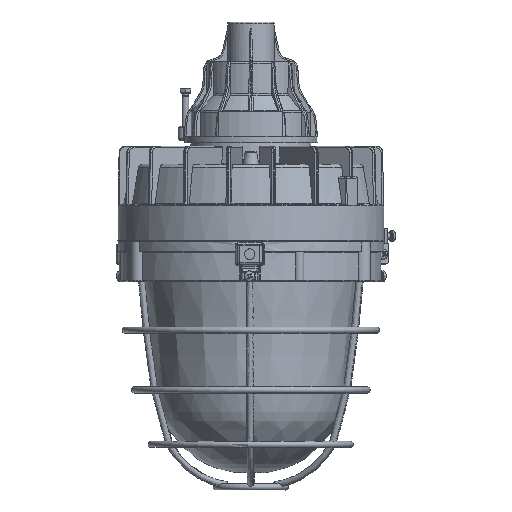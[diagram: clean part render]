
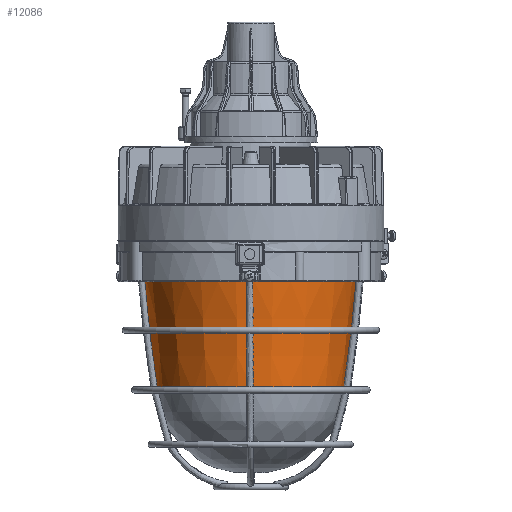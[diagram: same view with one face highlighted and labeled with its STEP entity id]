
A CAD part, front view. The second image highlights one B-rep face of the part: STEP entity #12086.
In plain terms, the highlighted conical face has half-angle 6.116 degrees and reference radius 75.5 mm.
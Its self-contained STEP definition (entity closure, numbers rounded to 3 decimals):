
#12052=CARTESIAN_POINT('',(-42.449,67.809,-27.438));
#12053=VERTEX_POINT('',#12052);
#12054=CARTESIAN_POINT('',(0.,0.0,-27.438));
#12055=DIRECTION('',(0.,0.,-1.0));
#12056=DIRECTION('',(-0.531,0.848,0.));
#12057=AXIS2_PLACEMENT_3D('',#12054,#12055,#12056);
#12058=CIRCLE('',#12057,80.);
#12059=EDGE_CURVE('',#12053,#12053,#12058,.T.);
#12067=CARTESIAN_POINT('',(0.,0.,-69.438));
#12068=DIRECTION('',(0.,0.,1.0));
#12069=DIRECTION('',(-0.531,0.848,0.));
#12070=AXIS2_PLACEMENT_3D('',#12067,#12068,#12069);
#12071=CONICAL_SURFACE('',#12070,75.5,6.116);
#12072=CARTESIAN_POINT('',(-37.674,60.18,-111.438));
#12073=VERTEX_POINT('',#12072);
#12074=CARTESIAN_POINT('',(0.,0.,-111.438));
#12075=DIRECTION('',(0.,0.,-1.0));
#12076=DIRECTION('',(-0.531,0.848,0.));
#12077=AXIS2_PLACEMENT_3D('',#12074,#12075,#12076);
#12078=CIRCLE('',#12077,71.);
#12079=EDGE_CURVE('',#12073,#12073,#12078,.T.);
#12080=ORIENTED_EDGE('',*,*,#12079,.F.);
#12081=EDGE_LOOP('',(#12080));
#12082=FACE_OUTER_BOUND('',#12081,.T.);
#12083=ORIENTED_EDGE('',*,*,#12059,.T.);
#12084=EDGE_LOOP('',(#12083));
#12085=FACE_BOUND('',#12084,.T.);
#12086=ADVANCED_FACE('',(#12082,#12085),#12071,.T.);
